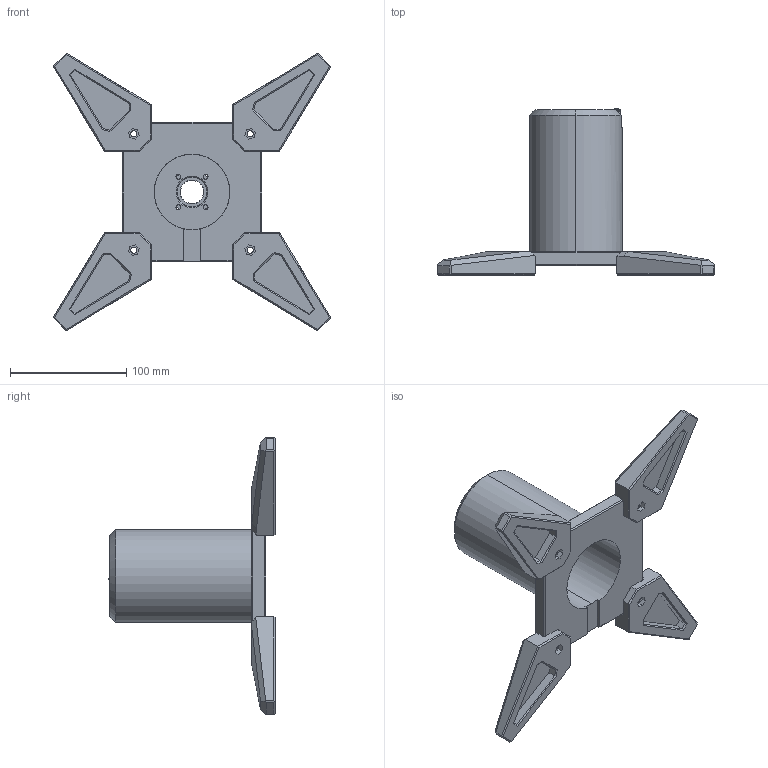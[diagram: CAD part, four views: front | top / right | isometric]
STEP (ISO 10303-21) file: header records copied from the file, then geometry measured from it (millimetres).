
FILE_DESCRIPTION(('Open CASCADE Model'),'2;1');
FILE_NAME('Open CASCADE Shape Model','2026-09-19T11:07:51',('Author'),( 'Open CASCADE'),'Open CASCADE STEP processor 7.9','Open CASCADE 7.9' ,'Unknown');
FILE_SCHEMA(('AUTOMOTIVE_DESIGN { 1 0 10303 214 1 1 1 1 }'));
Length unit declared in the file: millimetre
Products named in the file (6): Open CASCADE STEP translator 7.9 51; Open CASCADE STEP translator 7.9 51.1; Open CASCADE STEP translator 7.9 51.2; Open CASCADE STEP translator 7.9 51.3; Open CASCADE STEP translator 7.9 51.4; Open CASCADE STEP translator 7.9 51.6
Assembly tree (9 placements, depth 2):
  Open CASCADE STEP translator 7.9 51
    Open CASCADE STEP translator 7.9 51.1
    Open CASCADE STEP translator 7.9 51.2
    Open CASCADE STEP translator 7.9 51.3
    Open CASCADE STEP translator 7.9 51.4  x2
    Open CASCADE STEP translator 7.9 51.6  x4
Bounding box: 237.56 x 142.7 x 237.56 mm (x, y, z)
Volume: 599326.9 mm3; surface area: 146930.7 mm2
Topology: 9 solids, 9 shells, 605 faces, 1799 edges, 1151 vertices
Faces by surface type: plane 352, cylinder 91, torus 88, cone 74
Entity records: 56006 total; most frequent: CARTESIAN_POINT 32173, DIRECTION 3818, ORIENTED_EDGE 2644, PCURVE 2644, DEFINITIONAL_REPRESENTATION 2644, LINE 1868, VECTOR 1868, EDGE_CURVE 1322
